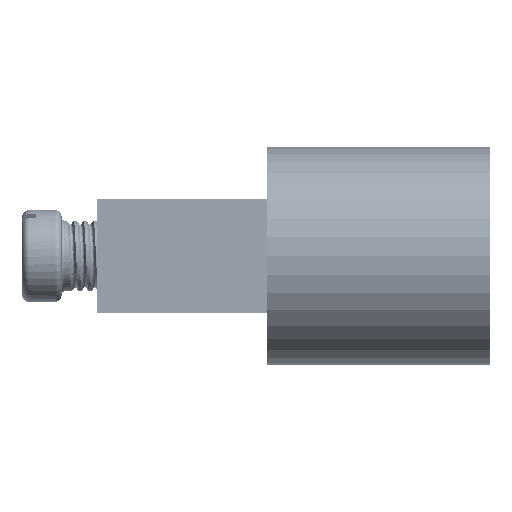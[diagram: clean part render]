
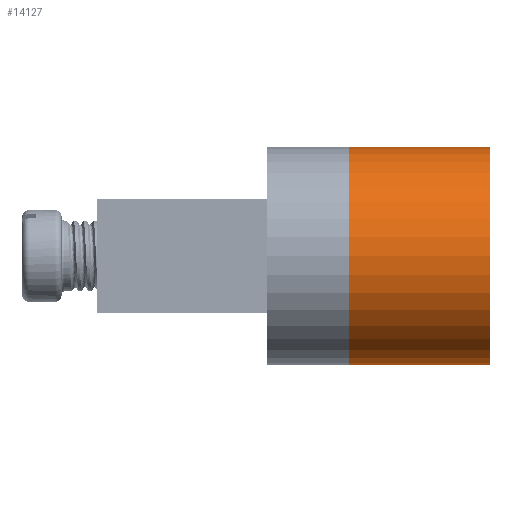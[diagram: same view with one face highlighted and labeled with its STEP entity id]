
A CAD part, left-side view. The second image highlights one B-rep face of the part: STEP entity #14127.
In plain terms, the highlighted cylindrical face has radius 7.7 mm (diameter 15.4 mm), a partial arc.
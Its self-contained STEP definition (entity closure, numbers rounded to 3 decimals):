
#54 = EDGE_CURVE ( 'NONE', #5400, #13172, #16384, .T. ) ;
#127 = AXIS2_PLACEMENT_3D ( 'NONE', #10511, #11762, #16953 ) ;
#2918 = AXIS2_PLACEMENT_3D ( 'NONE', #5050, #14245, #6399 ) ;
#3660 = DIRECTION ( 'NONE',  ( 0., 0., -1. ) ) ;
#4576 = CARTESIAN_POINT ( 'NONE',  ( 14., 7.7, 10. ) ) ;
#4714 = CARTESIAN_POINT ( 'NONE',  ( 14., 7.7, 0. ) ) ;
#5050 = CARTESIAN_POINT ( 'NONE',  ( 14., 0., 0. ) ) ;
#5183 = VECTOR ( 'NONE', #3660, 1000. ) ;
#5237 = AXIS2_PLACEMENT_3D ( 'NONE', #6091, #15248, #7416 ) ;
#5400 = VERTEX_POINT ( 'NONE', #5686 ) ;
#5686 = CARTESIAN_POINT ( 'NONE',  ( 14., -7.7, 0. ) ) ;
#6091 = CARTESIAN_POINT ( 'NONE',  ( 14., 0., 10. ) ) ;
#6399 = DIRECTION ( 'NONE',  ( 1., 0., 0. ) ) ;
#6521 = EDGE_CURVE ( 'NONE', #13690, #13172, #9379, .T. ) ;
#7416 = DIRECTION ( 'NONE',  ( 1., 0., 0. ) ) ;
#8197 = CIRCLE ( 'NONE', #5237, 7.7 ) ;
#8681 = LINE ( 'NONE', #11550, #5183 ) ;
#8725 = ORIENTED_EDGE ( 'NONE', *, *, #10221, .T. ) ;
#9379 = LINE ( 'NONE', #11048, #12459 ) ;
#10221 = EDGE_CURVE ( 'NONE', #14422, #5400, #8681, .T. ) ;
#10511 = CARTESIAN_POINT ( 'NONE',  ( 14., 0., 10. ) ) ;
#11048 = CARTESIAN_POINT ( 'NONE',  ( 14., 7.7, 10. ) ) ;
#11550 = CARTESIAN_POINT ( 'NONE',  ( 14., -7.7, 10. ) ) ;
#11762 = DIRECTION ( 'NONE',  ( 0., 0., -1. ) ) ;
#12459 = VECTOR ( 'NONE', #13696, 1000. ) ;
#13172 = VERTEX_POINT ( 'NONE', #4714 ) ;
#13678 = ORIENTED_EDGE ( 'NONE', *, *, #6521, .F. ) ;
#13690 = VERTEX_POINT ( 'NONE', #4576 ) ;
#13696 = DIRECTION ( 'NONE',  ( 0., 0., -1. ) ) ;
#13758 = EDGE_LOOP ( 'NONE', ( #15678, #13678, #13912, #8725 ) ) ;
#13773 = EDGE_CURVE ( 'NONE', #14422, #13690, #8197, .T. ) ;
#13912 = ORIENTED_EDGE ( 'NONE', *, *, #13773, .F. ) ;
#14127 = ADVANCED_FACE ( 'NONE', ( #15957 ), #15564, .T. ) ;
#14245 = DIRECTION ( 'NONE',  ( 0., 0., 1. ) ) ;
#14422 = VERTEX_POINT ( 'NONE', #16428 ) ;
#15248 = DIRECTION ( 'NONE',  ( 0., 0., 1. ) ) ;
#15564 = CYLINDRICAL_SURFACE ( 'NONE', #127, 7.7 ) ;
#15678 = ORIENTED_EDGE ( 'NONE', *, *, #54, .T. ) ;
#15957 = FACE_OUTER_BOUND ( 'NONE', #13758, .T. ) ;
#16384 = CIRCLE ( 'NONE', #2918, 7.7 ) ;
#16428 = CARTESIAN_POINT ( 'NONE',  ( 14., -7.7, 10. ) ) ;
#16953 = DIRECTION ( 'NONE',  ( -1., 0., 0. ) ) ;
